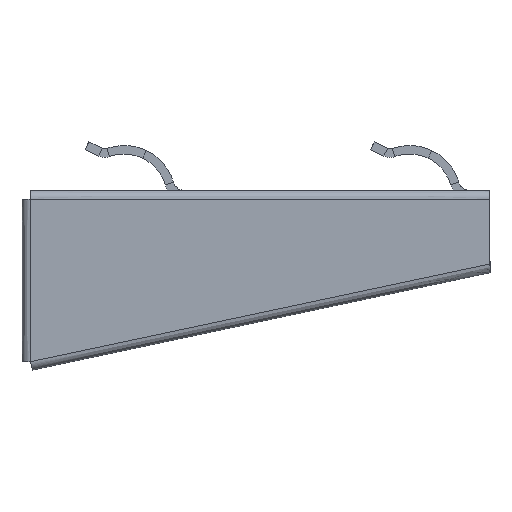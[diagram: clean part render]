
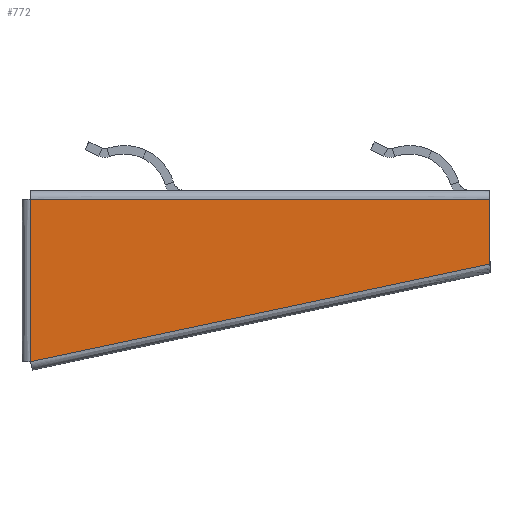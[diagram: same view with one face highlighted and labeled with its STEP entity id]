
A CAD part, left-side view. The second image highlights one B-rep face of the part: STEP entity #772.
In plain terms, the highlighted planar face has unit normal (-1, 0, 0).
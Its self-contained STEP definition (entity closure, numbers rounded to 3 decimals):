
#28=PLANE($,#2275);
#772=ADVANCED_FACE($,(#839),#28,.T.);
#839=FACE_OUTER_BOUND($,#909,.T.);
#909=EDGE_LOOP($,(#1156,#1157,#1158,#1159));
#1156=ORIENTED_EDGE($,*,*,#1477,.F.);
#1157=ORIENTED_EDGE($,*,*,#1476,.T.);
#1158=ORIENTED_EDGE($,*,*,#1479,.T.);
#1159=ORIENTED_EDGE($,*,*,#1478,.F.);
#1476=EDGE_CURVE($,#1799,#1796,#2019,.T.);
#1477=EDGE_CURVE($,#1799,#1798,#2204,.T.);
#1478=EDGE_CURVE($,#1798,#1797,#2205,.T.);
#1479=EDGE_CURVE($,#1796,#1797,#2206,.T.);
#1796=VERTEX_POINT($,#4411);
#1797=VERTEX_POINT($,#4412);
#1798=VERTEX_POINT($,#4413);
#1799=VERTEX_POINT($,#4414);
#2019=B_SPLINE_CURVE_WITH_KNOTS($,1,(#4396,#4397),.UNSPECIFIED.,.F.,.F.,
(2,2),(0.,1.),.UNSPECIFIED.);
#2204=(
BOUNDED_CURVE()
B_SPLINE_CURVE(3,(#4398,#4399,#4400,#4401),.UNSPECIFIED.,.F.,.F.)
B_SPLINE_CURVE_WITH_KNOTS((4,4),(0.,82.298),.UNSPECIFIED.)
CURVE()
GEOMETRIC_REPRESENTATION_ITEM()
RATIONAL_B_SPLINE_CURVE((1.,1.,1.,1.))
REPRESENTATION_ITEM($)
);
#2205=(
BOUNDED_CURVE()
B_SPLINE_CURVE(3,(#4402,#4403,#4404,#4405),.UNSPECIFIED.,.F.,.F.)
B_SPLINE_CURVE_WITH_KNOTS((4,4),(0.,28.5),.UNSPECIFIED.)
CURVE()
GEOMETRIC_REPRESENTATION_ITEM()
RATIONAL_B_SPLINE_CURVE((1.,1.,1.,1.))
REPRESENTATION_ITEM($)
);
#2206=(
BOUNDED_CURVE()
B_SPLINE_CURVE(3,(#4406,#4407,#4408,#4409),.UNSPECIFIED.,.F.,.F.)
B_SPLINE_CURVE_WITH_KNOTS((4,4),(0.,80.5),.UNSPECIFIED.)
CURVE()
GEOMETRIC_REPRESENTATION_ITEM()
RATIONAL_B_SPLINE_CURVE((1.,1.,1.,1.))
REPRESENTATION_ITEM($)
);
#2275=AXIS2_PLACEMENT_3D($,#4410,#2299,$);
#2299=DIRECTION($,(-1.,0.,0.));
#4396=CARTESIAN_POINT($,(-11.25,-80.5,-12.889));
#4397=CARTESIAN_POINT($,(-11.25,-80.5,-1.5));
#4398=CARTESIAN_POINT($,(-11.25,-80.5,-12.889));
#4399=CARTESIAN_POINT($,(-11.25,-53.667,-18.593));
#4400=CARTESIAN_POINT($,(-11.25,-26.833,-24.296));
#4401=CARTESIAN_POINT($,(-11.25,0.,-30.));
#4402=CARTESIAN_POINT($,(-11.25,0.,-30.));
#4403=CARTESIAN_POINT($,(-11.25,0.,-20.5));
#4404=CARTESIAN_POINT($,(-11.25,0.,-11.));
#4405=CARTESIAN_POINT($,(-11.25,0.,-1.5));
#4406=CARTESIAN_POINT($,(-11.25,-80.5,-1.5));
#4407=CARTESIAN_POINT($,(-11.25,-53.667,-1.5));
#4408=CARTESIAN_POINT($,(-11.25,-26.833,-1.5));
#4409=CARTESIAN_POINT($,(-11.25,0.,-1.5));
#4410=CARTESIAN_POINT($,(-11.25,-80.5,-30.));
#4411=CARTESIAN_POINT($,(-11.25,-80.5,-1.5));
#4412=CARTESIAN_POINT($,(-11.25,0.,-1.5));
#4413=CARTESIAN_POINT($,(-11.25,0.,-30.));
#4414=CARTESIAN_POINT($,(-11.25,-80.5,-12.889));
